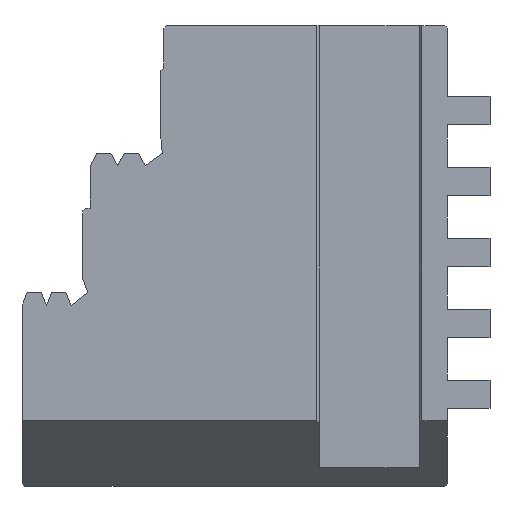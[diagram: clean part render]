
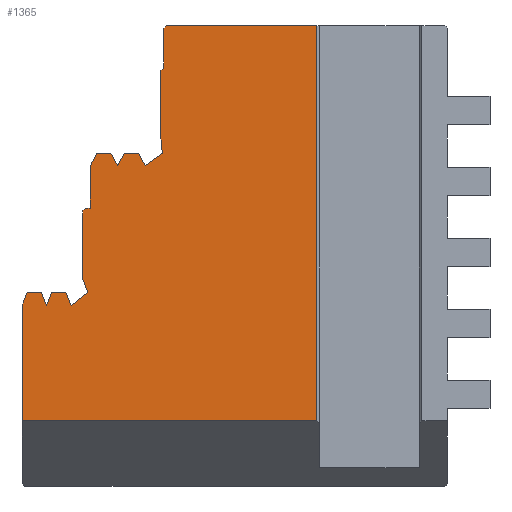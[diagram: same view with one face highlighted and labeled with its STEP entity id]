
A CAD part, left-side view. The second image highlights one B-rep face of the part: STEP entity #1365.
In plain terms, the highlighted planar face has unit normal (-1, 0, 0).
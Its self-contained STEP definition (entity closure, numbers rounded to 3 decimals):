
#19=FACE_OUTER_BOUND('',#88,.T.);
#88=EDGE_LOOP('',(#922,#923,#924,#925,#926,#927,#928,#929,#930,#931,#932,
#933,#934,#935,#936,#937,#938,#939,#940,#941,#942,#943,#944,#945,#946,#947,
#948,#949,#950,#951));
#163=LINE('',#1881,#364);
#182=LINE('',#1920,#383);
#183=LINE('',#1922,#384);
#184=LINE('',#1924,#385);
#185=LINE('',#1926,#386);
#186=LINE('',#1928,#387);
#187=LINE('',#1930,#388);
#188=LINE('',#1932,#389);
#189=LINE('',#1934,#390);
#190=LINE('',#1936,#391);
#191=LINE('',#1938,#392);
#192=LINE('',#1940,#393);
#193=LINE('',#1942,#394);
#194=LINE('',#1944,#395);
#195=LINE('',#1946,#396);
#196=LINE('',#1948,#397);
#197=LINE('',#1950,#398);
#198=LINE('',#1952,#399);
#199=LINE('',#1954,#400);
#200=LINE('',#1956,#401);
#201=LINE('',#1958,#402);
#202=LINE('',#1960,#403);
#203=LINE('',#1962,#404);
#204=LINE('',#1964,#405);
#205=LINE('',#1966,#406);
#206=LINE('',#1968,#407);
#207=LINE('',#1970,#408);
#208=LINE('',#1972,#409);
#209=LINE('',#1974,#410);
#210=LINE('',#1975,#411);
#364=VECTOR('',#1530,10.);
#383=VECTOR('',#1557,10.);
#384=VECTOR('',#1558,10.);
#385=VECTOR('',#1559,10.);
#386=VECTOR('',#1560,10.);
#387=VECTOR('',#1561,10.);
#388=VECTOR('',#1562,10.);
#389=VECTOR('',#1563,10.);
#390=VECTOR('',#1564,10.);
#391=VECTOR('',#1565,10.);
#392=VECTOR('',#1566,10.);
#393=VECTOR('',#1567,10.);
#394=VECTOR('',#1568,10.);
#395=VECTOR('',#1569,10.);
#396=VECTOR('',#1570,10.);
#397=VECTOR('',#1571,10.);
#398=VECTOR('',#1572,10.);
#399=VECTOR('',#1573,10.);
#400=VECTOR('',#1574,10.);
#401=VECTOR('',#1575,10.);
#402=VECTOR('',#1576,10.);
#403=VECTOR('',#1577,10.);
#404=VECTOR('',#1578,10.);
#405=VECTOR('',#1579,10.);
#406=VECTOR('',#1580,10.);
#407=VECTOR('',#1581,10.);
#408=VECTOR('',#1582,10.);
#409=VECTOR('',#1583,10.);
#410=VECTOR('',#1584,10.);
#411=VECTOR('',#1585,10.);
#565=VERTEX_POINT('',#1878);
#566=VERTEX_POINT('',#1880);
#582=VERTEX_POINT('',#1919);
#583=VERTEX_POINT('',#1921);
#584=VERTEX_POINT('',#1923);
#585=VERTEX_POINT('',#1925);
#586=VERTEX_POINT('',#1927);
#587=VERTEX_POINT('',#1929);
#588=VERTEX_POINT('',#1931);
#589=VERTEX_POINT('',#1933);
#590=VERTEX_POINT('',#1935);
#591=VERTEX_POINT('',#1937);
#592=VERTEX_POINT('',#1939);
#593=VERTEX_POINT('',#1941);
#594=VERTEX_POINT('',#1943);
#595=VERTEX_POINT('',#1945);
#596=VERTEX_POINT('',#1947);
#597=VERTEX_POINT('',#1949);
#598=VERTEX_POINT('',#1951);
#599=VERTEX_POINT('',#1953);
#600=VERTEX_POINT('',#1955);
#601=VERTEX_POINT('',#1957);
#602=VERTEX_POINT('',#1959);
#603=VERTEX_POINT('',#1961);
#604=VERTEX_POINT('',#1963);
#605=VERTEX_POINT('',#1965);
#606=VERTEX_POINT('',#1967);
#607=VERTEX_POINT('',#1969);
#608=VERTEX_POINT('',#1971);
#609=VERTEX_POINT('',#1973);
#699=EDGE_CURVE('',#566,#565,#163,.T.);
#718=EDGE_CURVE('',#582,#565,#182,.T.);
#719=EDGE_CURVE('',#582,#583,#183,.T.);
#720=EDGE_CURVE('',#584,#583,#184,.T.);
#721=EDGE_CURVE('',#584,#585,#185,.T.);
#722=EDGE_CURVE('',#586,#585,#186,.T.);
#723=EDGE_CURVE('',#586,#587,#187,.T.);
#724=EDGE_CURVE('',#587,#588,#188,.T.);
#725=EDGE_CURVE('',#588,#589,#189,.T.);
#726=EDGE_CURVE('',#589,#590,#190,.T.);
#727=EDGE_CURVE('',#590,#591,#191,.T.);
#728=EDGE_CURVE('',#591,#592,#192,.T.);
#729=EDGE_CURVE('',#592,#593,#193,.T.);
#730=EDGE_CURVE('',#593,#594,#194,.T.);
#731=EDGE_CURVE('',#594,#595,#195,.T.);
#732=EDGE_CURVE('',#596,#595,#196,.T.);
#733=EDGE_CURVE('',#596,#597,#197,.T.);
#734=EDGE_CURVE('',#597,#598,#198,.T.);
#735=EDGE_CURVE('',#599,#598,#199,.T.);
#736=EDGE_CURVE('',#599,#600,#200,.T.);
#737=EDGE_CURVE('',#600,#601,#201,.T.);
#738=EDGE_CURVE('',#601,#602,#202,.T.);
#739=EDGE_CURVE('',#602,#603,#203,.T.);
#740=EDGE_CURVE('',#603,#604,#204,.T.);
#741=EDGE_CURVE('',#604,#605,#205,.T.);
#742=EDGE_CURVE('',#605,#606,#206,.T.);
#743=EDGE_CURVE('',#606,#607,#207,.T.);
#744=EDGE_CURVE('',#607,#608,#208,.T.);
#745=EDGE_CURVE('',#609,#608,#209,.T.);
#746=EDGE_CURVE('',#609,#566,#210,.T.);
#922=ORIENTED_EDGE('',*,*,#699,.T.);
#923=ORIENTED_EDGE('',*,*,#718,.F.);
#924=ORIENTED_EDGE('',*,*,#719,.T.);
#925=ORIENTED_EDGE('',*,*,#720,.F.);
#926=ORIENTED_EDGE('',*,*,#721,.T.);
#927=ORIENTED_EDGE('',*,*,#722,.F.);
#928=ORIENTED_EDGE('',*,*,#723,.T.);
#929=ORIENTED_EDGE('',*,*,#724,.T.);
#930=ORIENTED_EDGE('',*,*,#725,.T.);
#931=ORIENTED_EDGE('',*,*,#726,.T.);
#932=ORIENTED_EDGE('',*,*,#727,.T.);
#933=ORIENTED_EDGE('',*,*,#728,.T.);
#934=ORIENTED_EDGE('',*,*,#729,.T.);
#935=ORIENTED_EDGE('',*,*,#730,.T.);
#936=ORIENTED_EDGE('',*,*,#731,.T.);
#937=ORIENTED_EDGE('',*,*,#732,.F.);
#938=ORIENTED_EDGE('',*,*,#733,.T.);
#939=ORIENTED_EDGE('',*,*,#734,.T.);
#940=ORIENTED_EDGE('',*,*,#735,.F.);
#941=ORIENTED_EDGE('',*,*,#736,.T.);
#942=ORIENTED_EDGE('',*,*,#737,.T.);
#943=ORIENTED_EDGE('',*,*,#738,.T.);
#944=ORIENTED_EDGE('',*,*,#739,.T.);
#945=ORIENTED_EDGE('',*,*,#740,.T.);
#946=ORIENTED_EDGE('',*,*,#741,.T.);
#947=ORIENTED_EDGE('',*,*,#742,.T.);
#948=ORIENTED_EDGE('',*,*,#743,.T.);
#949=ORIENTED_EDGE('',*,*,#744,.T.);
#950=ORIENTED_EDGE('',*,*,#745,.F.);
#951=ORIENTED_EDGE('',*,*,#746,.T.);
#1296=PLANE('',#1451);
#1365=ADVANCED_FACE('',(#19),#1296,.T.);
#1451=AXIS2_PLACEMENT_3D('',#1918,#1555,#1556);
#1530=DIRECTION('',(0.,-1.,0.));
#1555=DIRECTION('center_axis',(-1.,0.,0.));
#1556=DIRECTION('ref_axis',(0.,0.,1.));
#1557=DIRECTION('',(0.,0.,-1.));
#1558=DIRECTION('',(0.,1.,0.));
#1559=DIRECTION('',(0.,-0.707,0.707));
#1560=DIRECTION('',(0.,0.,-1.));
#1561=DIRECTION('',(0.,-0.707,0.707));
#1562=DIRECTION('',(0.,0.,-1.));
#1563=DIRECTION('',(0.,-0.1,-0.995));
#1564=DIRECTION('',(0.,0.809,-0.588));
#1565=DIRECTION('',(0.,0.472,0.882));
#1566=DIRECTION('',(0.,1.,0.));
#1567=DIRECTION('',(0.,0.472,-0.882));
#1568=DIRECTION('',(0.,0.472,0.882));
#1569=DIRECTION('',(0.,1.,0.));
#1570=DIRECTION('',(0.,0.472,-0.882));
#1571=DIRECTION('',(0.,-0.243,0.97));
#1572=DIRECTION('',(0.,0.,-1.));
#1573=DIRECTION('',(0.,1.,0.));
#1574=DIRECTION('',(0.,-0.707,0.707));
#1575=DIRECTION('',(0.,0.,-1.));
#1576=DIRECTION('',(0.,-0.345,-0.939));
#1577=DIRECTION('',(0.,0.785,-0.62));
#1578=DIRECTION('',(0.,0.367,0.93));
#1579=DIRECTION('',(0.,1.,0.));
#1580=DIRECTION('',(0.,0.367,-0.93));
#1581=DIRECTION('',(0.,0.367,0.93));
#1582=DIRECTION('',(0.,1.,0.));
#1583=DIRECTION('',(0.,0.367,-0.93));
#1584=DIRECTION('',(0.,-0.187,0.982));
#1585=DIRECTION('',(0.,0.,-1.));
#1878=CARTESIAN_POINT('',(-6.,9.2,4.63));
#1880=CARTESIAN_POINT('',(-6.,30.,4.63));
#1881=CARTESIAN_POINT('',(-6.,20.55,4.63));
#1918=CARTESIAN_POINT('Origin',(-6.,11.099,15.471));
#1919=CARTESIAN_POINT('',(-6.,9.2,32.5));
#1920=CARTESIAN_POINT('',(-6.,9.2,7.736));
#1921=CARTESIAN_POINT('',(-6.,19.8,32.5));
#1922=CARTESIAN_POINT('',(-6.,20.,32.5));
#1923=CARTESIAN_POINT('',(-6.,20.,32.3));
#1924=CARTESIAN_POINT('',(-6.,21.932,30.368));
#1925=CARTESIAN_POINT('',(-6.,20.,29.5));
#1926=CARTESIAN_POINT('',(-6.,20.,29.5));
#1927=CARTESIAN_POINT('',(-6.,20.2,29.3));
#1928=CARTESIAN_POINT('',(-6.,21.332,28.168));
#1929=CARTESIAN_POINT('',(-6.,20.2,24.5));
#1930=CARTESIAN_POINT('',(-6.,20.2,24.5));
#1931=CARTESIAN_POINT('',(-6.,20.1,23.505));
#1932=CARTESIAN_POINT('',(-6.,20.1,23.505));
#1933=CARTESIAN_POINT('',(-6.,21.313,22.623));
#1934=CARTESIAN_POINT('',(-6.,21.313,22.623));
#1935=CARTESIAN_POINT('',(-6.,21.785,23.505));
#1936=CARTESIAN_POINT('',(-6.,21.785,23.505));
#1937=CARTESIAN_POINT('',(-6.,22.785,23.505));
#1938=CARTESIAN_POINT('',(-6.,22.785,23.505));
#1939=CARTESIAN_POINT('',(-6.,23.257,22.623));
#1940=CARTESIAN_POINT('',(-6.,23.257,22.623));
#1941=CARTESIAN_POINT('',(-6.,23.728,23.505));
#1942=CARTESIAN_POINT('',(-6.,23.728,23.505));
#1943=CARTESIAN_POINT('',(-6.,24.728,23.505));
#1944=CARTESIAN_POINT('',(-6.,24.728,23.505));
#1945=CARTESIAN_POINT('',(-6.,25.106,22.8));
#1946=CARTESIAN_POINT('',(-6.,25.2,22.623));
#1947=CARTESIAN_POINT('',(-6.,25.2,22.423));
#1948=CARTESIAN_POINT('',(-6.,25.579,20.909));
#1949=CARTESIAN_POINT('',(-6.,25.2,19.623));
#1950=CARTESIAN_POINT('',(-6.,25.2,19.623));
#1951=CARTESIAN_POINT('',(-6.,25.5,19.623));
#1952=CARTESIAN_POINT('',(-6.,25.7,19.623));
#1953=CARTESIAN_POINT('',(-6.,25.7,19.423));
#1954=CARTESIAN_POINT('',(-6.,22.988,22.135));
#1955=CARTESIAN_POINT('',(-6.,25.7,14.623));
#1956=CARTESIAN_POINT('',(-6.,25.7,14.623));
#1957=CARTESIAN_POINT('',(-6.,25.355,13.685));
#1958=CARTESIAN_POINT('',(-6.,25.355,13.685));
#1959=CARTESIAN_POINT('',(-6.,26.532,12.755));
#1960=CARTESIAN_POINT('',(-6.,26.532,12.755));
#1961=CARTESIAN_POINT('',(-6.,26.899,13.685));
#1962=CARTESIAN_POINT('',(-6.,26.899,13.685));
#1963=CARTESIAN_POINT('',(-6.,27.899,13.685));
#1964=CARTESIAN_POINT('',(-6.,27.899,13.685));
#1965=CARTESIAN_POINT('',(-6.,28.266,12.755));
#1966=CARTESIAN_POINT('',(-6.,28.266,12.755));
#1967=CARTESIAN_POINT('',(-6.,28.633,13.685));
#1968=CARTESIAN_POINT('',(-6.,28.633,13.685));
#1969=CARTESIAN_POINT('',(-6.,29.633,13.685));
#1970=CARTESIAN_POINT('',(-6.,29.633,13.685));
#1971=CARTESIAN_POINT('',(-6.,29.927,12.941));
#1972=CARTESIAN_POINT('',(-6.,30.,12.755));
#1973=CARTESIAN_POINT('',(-6.,30.,12.555));
#1974=CARTESIAN_POINT('',(-6.,29.384,15.793));
#1975=CARTESIAN_POINT('',(-6.,30.,0.));
